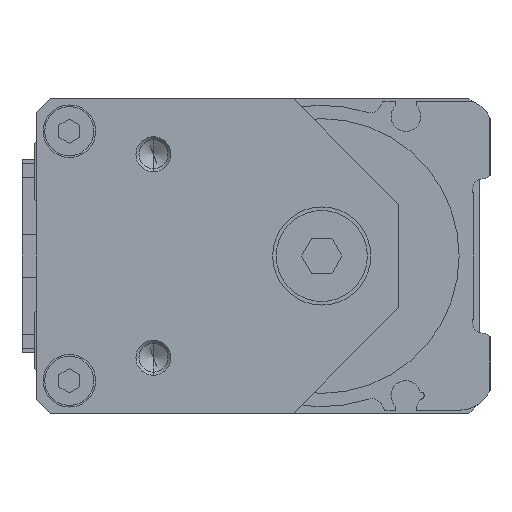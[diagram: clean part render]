
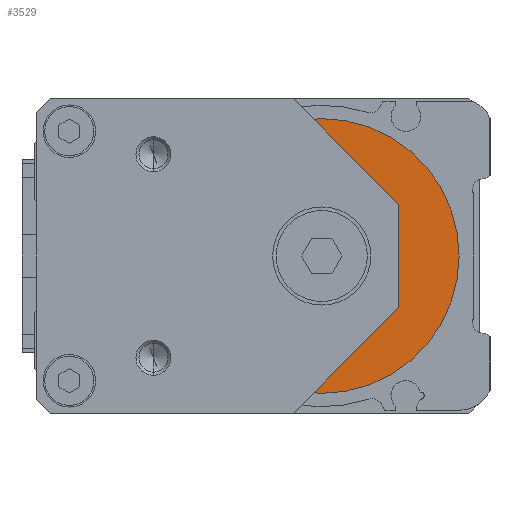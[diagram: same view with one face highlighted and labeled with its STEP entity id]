
A CAD part, left-side view. The second image highlights one B-rep face of the part: STEP entity #3529.
In plain terms, the highlighted planar face has unit normal (-1, 0, 0) as drawn and (0, 0, 1) by its records, which use the part's own axes.
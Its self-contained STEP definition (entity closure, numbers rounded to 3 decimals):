
#1501 = DIRECTION ( 'NONE',  ( 0., 0., 1. ) ) ;
#2297 = EDGE_LOOP ( 'NONE', ( #33004, #10232 ) ) ;
#3474 = CIRCLE ( 'NONE', #26303, 10. ) ;
#3529 = ADVANCED_FACE ( 'NONE', ( #29268, #39159 ), #38514, .T. ) ;
#4716 = DIRECTION ( 'NONE',  ( 1., 0., 0. ) ) ;
#6637 = AXIS2_PLACEMENT_3D ( 'NONE', #15002, #1501, #4716 ) ;
#8339 = ORIENTED_EDGE ( 'NONE', *, *, #20517, .T. ) ;
#9366 = VERTEX_POINT ( 'NONE', #36480 ) ;
#10037 = CIRCLE ( 'NONE', #34315, 19.6 ) ;
#10232 = ORIENTED_EDGE ( 'NONE', *, *, #14389, .F. ) ;
#11127 = AXIS2_PLACEMENT_3D ( 'NONE', #31944, #21648, #42464 ) ;
#11153 = CARTESIAN_POINT ( 'NONE',  ( 0., 0., -1. ) ) ;
#11158 = ORIENTED_EDGE ( 'NONE', *, *, #37232, .T. ) ;
#11811 = DIRECTION ( 'NONE',  ( 0., 0., 1. ) ) ;
#12514 = VERTEX_POINT ( 'NONE', #21910 ) ;
#14389 = EDGE_CURVE ( 'NONE', #42473, #9366, #38713, .T. ) ;
#15002 = CARTESIAN_POINT ( 'NONE',  ( 0., 0., -1. ) ) ;
#15672 = DIRECTION ( 'NONE',  ( 1., 0., 0. ) ) ;
#16292 = DIRECTION ( 'NONE',  ( 0., 0., 1. ) ) ;
#19632 = CARTESIAN_POINT ( 'NONE',  ( 0., 0., -1. ) ) ;
#20517 = EDGE_CURVE ( 'NONE', #12514, #41356, #43985, .T. ) ;
#21346 = CARTESIAN_POINT ( 'NONE',  ( 10., 0., -1. ) ) ;
#21648 = DIRECTION ( 'NONE',  ( 0., 0., 1. ) ) ;
#21910 = CARTESIAN_POINT ( 'NONE',  ( 19.6, 0., -1. ) ) ;
#26303 = AXIS2_PLACEMENT_3D ( 'NONE', #11153, #11811, #38455 ) ;
#26515 = DIRECTION ( 'NONE',  ( 1., 0., 0. ) ) ;
#28682 = AXIS2_PLACEMENT_3D ( 'NONE', #36036, #32875, #15672 ) ;
#29268 = FACE_BOUND ( 'NONE', #2297, .T. ) ;
#30321 = EDGE_CURVE ( 'NONE', #9366, #42473, #3474, .T. ) ;
#31944 = CARTESIAN_POINT ( 'NONE',  ( 0., 0., -1. ) ) ;
#32875 = DIRECTION ( 'NONE',  ( 0., 0., 1. ) ) ;
#33004 = ORIENTED_EDGE ( 'NONE', *, *, #30321, .F. ) ;
#34315 = AXIS2_PLACEMENT_3D ( 'NONE', #19632, #16292, #26515 ) ;
#36036 = CARTESIAN_POINT ( 'NONE',  ( 0., 0., -1. ) ) ;
#36480 = CARTESIAN_POINT ( 'NONE',  ( -10., 0., -1. ) ) ;
#37232 = EDGE_CURVE ( 'NONE', #41356, #12514, #10037, .T. ) ;
#37364 = CARTESIAN_POINT ( 'NONE',  ( -19.6, 0., -1. ) ) ;
#38120 = EDGE_LOOP ( 'NONE', ( #8339, #11158 ) ) ;
#38455 = DIRECTION ( 'NONE',  ( 1., 0., 0. ) ) ;
#38514 = PLANE ( 'NONE',  #6637 ) ;
#38713 = CIRCLE ( 'NONE', #28682, 10. ) ;
#39159 = FACE_OUTER_BOUND ( 'NONE', #38120, .T. ) ;
#41356 = VERTEX_POINT ( 'NONE', #37364 ) ;
#42464 = DIRECTION ( 'NONE',  ( 1., 0., 0. ) ) ;
#42473 = VERTEX_POINT ( 'NONE', #21346 ) ;
#43985 = CIRCLE ( 'NONE', #11127, 19.6 ) ;
